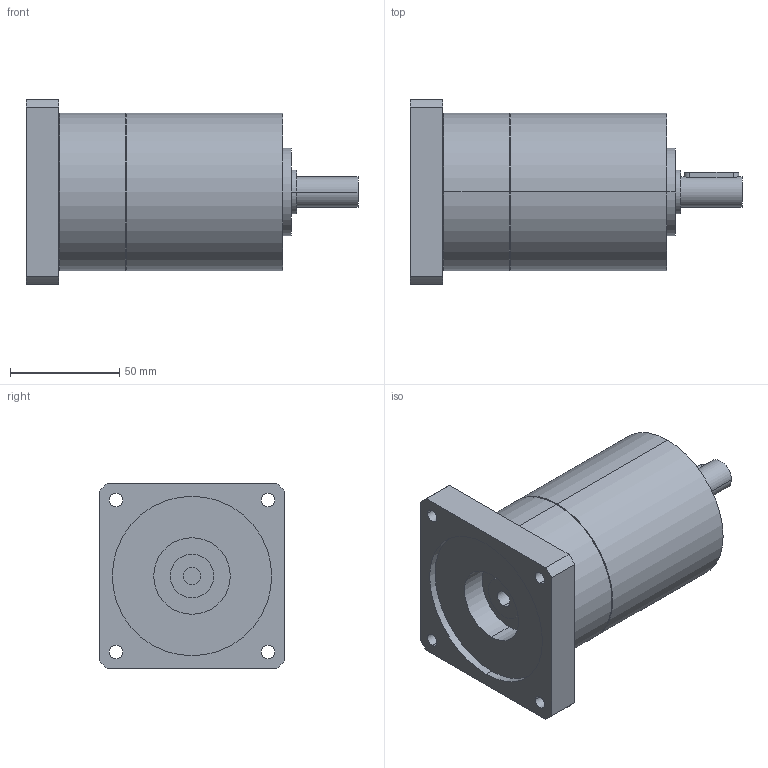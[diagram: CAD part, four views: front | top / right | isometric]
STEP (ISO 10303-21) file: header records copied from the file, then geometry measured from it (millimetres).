
FILE_DESCRIPTION(('CoCreate Modeling STEP Export'),'2;1');
FILE_NAME('GPT75_ig-9-12-16-20-25-28-35-40-50-70-100_14_B14T_8_P36.stp','2014-08-27T13:24:32',(''),(''),'CoCreate Modeling STEP processor for AP214 (Solid Model)','CoCreate Modeling 16.00C 25-Feb-2009 (C) Parametric Technology GmbH','');
FILE_SCHEMA(('AUTOMOTIVE_DESIGN { 1 0 10303 214 1 1 1 1 }'));
Length unit declared in the file: millimetre
Products named in the file (2): GPT75_ig-9-12-16-20-25-28-35-40-50-70-100_14_B14T_8_P36
Assembly tree (1 placements, depth 2):
  GPT75_ig-9-12-16-20-25-28-35-40-50-70-100_14_B14T_8_P36
    GPT75_ig-9-12-16-20-25-28-35-40-50-70-100_14_B14T_8_P36
Bounding box: 152 x 85 x 85 mm (x, y, z)
Volume: 506665.9 mm3; surface area: 49698.8 mm2
Topology: 1 solids, 1 shells, 69 faces, 166 edges, 113 vertices
Faces by surface type: cylinder 42, plane 23, cone 4
Entity records: 2161 total; most frequent: CARTESIAN_POINT 664, ORIENTED_EDGE 332, DIRECTION 262, EDGE_CURVE 166, VERTEX_POINT 113, AXIS2_PLACEMENT_3D 99, EDGE_LOOP 91, FACE_OUTER_BOUND 69
